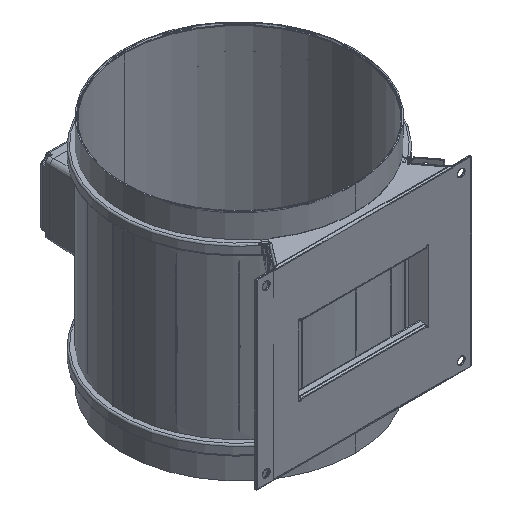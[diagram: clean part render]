
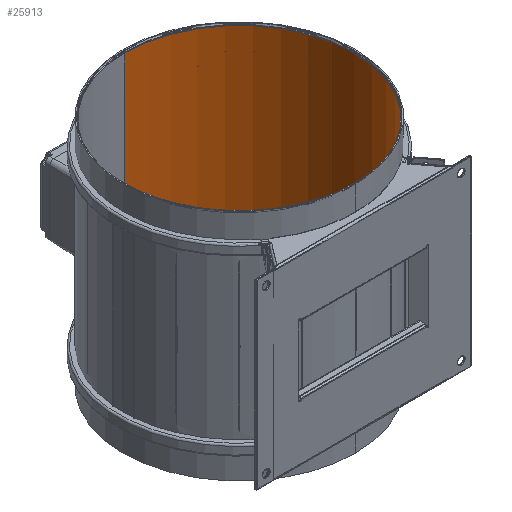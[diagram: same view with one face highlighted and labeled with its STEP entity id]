
A CAD part, isometric view. The second image highlights one B-rep face of the part: STEP entity #25913.
In plain terms, the highlighted cylindrical face has radius 137.16 mm (diameter 274.32 mm), a partial arc.
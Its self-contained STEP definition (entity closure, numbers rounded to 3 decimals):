
#1951 = DIRECTION ( 'NONE',  ( 0., 0., -1. ) ) ;
#1996 = CARTESIAN_POINT ( 'NONE',  ( 0., 0., -78.423 ) ) ;
#2016 = CARTESIAN_POINT ( 'NONE',  ( 0., 0., -355.402 ) ) ;
#2053 = DIRECTION ( 'NONE',  ( 0., -1., 0. ) ) ;
#2076 = DIRECTION ( 'NONE',  ( 1., 0., 0. ) ) ;
#2143 = DIRECTION ( 'NONE',  ( 0., 0., -1. ) ) ;
#3114 = CIRCLE ( 'NONE', #17389, 137.16 ) ;
#3207 = CIRCLE ( 'NONE', #16956, 137.16 ) ;
#3897 = EDGE_CURVE ( 'NONE', #35717, #35559, #25381, .T. ) ;
#5518 = EDGE_CURVE ( 'NONE', #35506, #40847, #13195, .T. ) ;
#5804 = DIRECTION ( 'NONE',  ( 0., 0., 1. ) ) ;
#6164 = CARTESIAN_POINT ( 'NONE',  ( 0., -137.16, -78.423 ) ) ;
#6213 = CARTESIAN_POINT ( 'NONE',  ( 0., 137.16, -78.423 ) ) ;
#6331 = CARTESIAN_POINT ( 'NONE',  ( 0., -137.16, 0. ) ) ;
#6432 = CARTESIAN_POINT ( 'NONE',  ( 0., -137.16, -355.402 ) ) ;
#6515 = CARTESIAN_POINT ( 'NONE',  ( 0., 137.16, -355.402 ) ) ;
#6528 = CARTESIAN_POINT ( 'NONE',  ( 0., 137.16, -234.143 ) ) ;
#6661 = CARTESIAN_POINT ( 'NONE',  ( 0., 137.16, -254.143 ) ) ;
#7327 = DIRECTION ( 'NONE',  ( 0., 0., 1. ) ) ;
#7329 = CARTESIAN_POINT ( 'NONE',  ( 7.5, 136.955, -589.423 ) ) ;
#7770 = CARTESIAN_POINT ( 'NONE',  ( 7.5, 136.955, -253.143 ) ) ;
#7771 = CARTESIAN_POINT ( 'NONE',  ( 7.5, 136.955, -253.407 ) ) ;
#7772 = CARTESIAN_POINT ( 'NONE',  ( 7.391, 136.961, -253.666 ) ) ;
#7773 = CARTESIAN_POINT ( 'NONE',  ( 7.114, 136.975, -253.943 ) ) ;
#7774 = CARTESIAN_POINT ( 'NONE',  ( 7.004, 136.981, -254.017 ) ) ;
#7775 = CARTESIAN_POINT ( 'NONE',  ( 6.761, 136.993, -254.117 ) ) ;
#7779 = DIRECTION ( 'NONE',  ( 0., 0., 1. ) ) ;
#7780 = CARTESIAN_POINT ( 'NONE',  ( 0., 137.16, 0. ) ) ;
#7791 = CARTESIAN_POINT ( 'NONE',  ( 6.632, 137., -254.143 ) ) ;
#7799 = CARTESIAN_POINT ( 'NONE',  ( 6.5, 137.006, -254.143 ) ) ;
#7965 = DIRECTION ( 'NONE',  ( 0., 0., 1. ) ) ;
#7966 = CARTESIAN_POINT ( 'NONE',  ( 0., 137.16, 0. ) ) ;
#12553 = CARTESIAN_POINT ( 'NONE',  ( 6.5, 137.006, -254.143 ) ) ;
#13195 = CIRCLE ( 'NONE', #37936, 137.16 ) ;
#15240 = ORIENTED_EDGE ( 'NONE', *, *, #36868, .F. ) ;
#15285 = ORIENTED_EDGE ( 'NONE', *, *, #5518, .F. ) ;
#15400 = ORIENTED_EDGE ( 'NONE', *, *, #36845, .T. ) ;
#15619 = ORIENTED_EDGE ( 'NONE', *, *, #36702, .F. ) ;
#15632 = ORIENTED_EDGE ( 'NONE', *, *, #36701, .F. ) ;
#15900 = ORIENTED_EDGE ( 'NONE', *, *, #3897, .T. ) ;
#16054 = ORIENTED_EDGE ( 'NONE', *, *, #36917, .F. ) ;
#16096 = ORIENTED_EDGE ( 'NONE', *, *, #36768, .F. ) ;
#16222 = ORIENTED_EDGE ( 'NONE', *, *, #36670, .F. ) ;
#16747 = AXIS2_PLACEMENT_3D ( 'NONE', #20544, #20689, #20693 ) ;
#16956 = AXIS2_PLACEMENT_3D ( 'NONE', #1996, #2143, #2076 ) ;
#17389 = AXIS2_PLACEMENT_3D ( 'NONE', #2016, #1951, #2053 ) ;
#18005 = B_SPLINE_CURVE_WITH_KNOTS ( 'NONE', 3,
 ( #7799, #7791, #7775, #7774, #7773, #7772, #7771, #7770 ),
 .UNSPECIFIED., .F., .F.,
 ( 4, 2, 2, 4 ),
 ( 0., 0., 0.001, 0.002 ),
 .UNSPECIFIED. ) ;
#18363 = EDGE_LOOP ( 'NONE', ( #16222, #15400, #15900, #15240, #15632, #16054, #16096, #15619, #15285 ) ) ;
#19701 = DIRECTION ( 'NONE',  ( -1., 0., 0. ) ) ;
#19702 = DIRECTION ( 'NONE',  ( 0., 0., -1. ) ) ;
#19703 = CARTESIAN_POINT ( 'NONE',  ( 0., 0., -254.143 ) ) ;
#19895 = CARTESIAN_POINT ( 'NONE',  ( 7.5, 136.955, -241.643 ) ) ;
#19919 = CARTESIAN_POINT ( 'NONE',  ( 7.5, 136.955, -253.143 ) ) ;
#20544 = CARTESIAN_POINT ( 'NONE',  ( 0., 0., 0. ) ) ;
#20689 = DIRECTION ( 'NONE',  ( 0., 0., 1. ) ) ;
#20693 = DIRECTION ( 'NONE',  ( 0., -1., 0. ) ) ;
#25381 = LINE ( 'NONE', #6331, #25387 ) ;
#25387 = VECTOR ( 'NONE', #5804, 1000. ) ;
#25913 = ADVANCED_FACE ( 'NONE', ( #32223 ), #32236, .F. ) ;
#32204 = VECTOR ( 'NONE', #7965, 1000. ) ;
#32207 = LINE ( 'NONE', #7966, #32204 ) ;
#32223 = FACE_OUTER_BOUND ( 'NONE', #18363, .T. ) ;
#32236 = CYLINDRICAL_SURFACE ( 'NONE', #16747, 137.16 ) ;
#32364 = LINE ( 'NONE', #7780, #32365 ) ;
#32365 = VECTOR ( 'NONE', #7779, 1000. ) ;
#32380 = VECTOR ( 'NONE', #7327, 1000. ) ;
#32417 = LINE ( 'NONE', #7329, #32380 ) ;
#35280 = VERTEX_POINT ( 'NONE', #19895 ) ;
#35409 = VERTEX_POINT ( 'NONE', #19919 ) ;
#35506 = VERTEX_POINT ( 'NONE', #6661 ) ;
#35523 = VERTEX_POINT ( 'NONE', #6515 ) ;
#35552 = VERTEX_POINT ( 'NONE', #6213 ) ;
#35559 = VERTEX_POINT ( 'NONE', #6164 ) ;
#35680 = VERTEX_POINT ( 'NONE', #6528 ) ;
#35717 = VERTEX_POINT ( 'NONE', #6432 ) ;
#36670 = EDGE_CURVE ( 'NONE', #35523, #35506, #32207, .T. ) ;
#36701 = EDGE_CURVE ( 'NONE', #35680, #35552, #32364, .T. ) ;
#36702 = EDGE_CURVE ( 'NONE', #40847, #35409, #18005, .T. ) ;
#36768 = EDGE_CURVE ( 'NONE', #35409, #35280, #32417, .T. ) ;
#36845 = EDGE_CURVE ( 'NONE', #35523, #35717, #3114, .T. ) ;
#36868 = EDGE_CURVE ( 'NONE', #35552, #35559, #3207, .T. ) ;
#36917 = EDGE_CURVE ( 'NONE', #35280, #35680, #38200, .T. ) ;
#37936 = AXIS2_PLACEMENT_3D ( 'NONE', #19703, #19702, #19701 ) ;
#38200 = B_SPLINE_CURVE_WITH_KNOTS ( 'NONE', 3,
 ( #38617, #38621, #38629, #38630, #38631, #38634, #38637, #38638, #38640, #38642, #38643, #38646, #38647, #38644, #38648, #38649, #38652, #38653, #38655, #38659, #38660, #38657, #38661 ),
 .UNSPECIFIED., .F., .F.,
 ( 4, 2, 2, 2, 2, 2, 2, 2, 1, 2, 2, 4 ),
 ( 0., 0.001, 0.002, 0.003, 0.004, 0.006, 0.007, 0.008, 0.009, 0.01, 0.01, 0.012 ),
 .UNSPECIFIED. ) ;
#38617 = CARTESIAN_POINT ( 'NONE',  ( 7.5, 136.955, -241.643 ) ) ;
#38621 = CARTESIAN_POINT ( 'NONE',  ( 7.5, 136.955, -241.148 ) ) ;
#38629 = CARTESIAN_POINT ( 'NONE',  ( 7.451, 136.957, -240.661 ) ) ;
#38630 = CARTESIAN_POINT ( 'NONE',  ( 7.309, 136.965, -239.942 ) ) ;
#38631 = CARTESIAN_POINT ( 'NONE',  ( 7.249, 136.968, -239.705 ) ) ;
#38634 = CARTESIAN_POINT ( 'NONE',  ( 7.107, 136.976, -239.234 ) ) ;
#38637 = CARTESIAN_POINT ( 'NONE',  ( 7.023, 136.98, -239. ) ) ;
#38638 = CARTESIAN_POINT ( 'NONE',  ( 6.741, 136.994, -238.319 ) ) ;
#38640 = CARTESIAN_POINT ( 'NONE',  ( 6.511, 137.006, -237.888 ) ) ;
#38642 = CARTESIAN_POINT ( 'NONE',  ( 5.967, 137.03, -237.073 ) ) ;
#38643 = CARTESIAN_POINT ( 'NONE',  ( 5.651, 137.044, -236.687 ) ) ;
#38644 = CARTESIAN_POINT ( 'NONE',  ( 3.968, 137.103, -235.274 ) ) ;
#38646 = CARTESIAN_POINT ( 'NONE',  ( 4.96, 137.071, -235.996 ) ) ;
#38647 = CARTESIAN_POINT ( 'NONE',  ( 4.582, 137.084, -235.685 ) ) ;
#38648 = CARTESIAN_POINT ( 'NONE',  ( 3.755, 137.109, -235.146 ) ) ;
#38649 = CARTESIAN_POINT ( 'NONE',  ( 3.323, 137.12, -234.915 ) ) ;
#38652 = CARTESIAN_POINT ( 'NONE',  ( 2.881, 137.13, -234.706 ) ) ;
#38653 = CARTESIAN_POINT ( 'NONE',  ( 2.421, 137.139, -234.54 ) ) ;
#38655 = CARTESIAN_POINT ( 'NONE',  ( 1.952, 137.146, -234.397 ) ) ;
#38657 = CARTESIAN_POINT ( 'NONE',  ( 0.495, 137.16, -234.143 ) ) ;
#38659 = CARTESIAN_POINT ( 'NONE',  ( 1.712, 137.15, -234.337 ) ) ;
#38660 = CARTESIAN_POINT ( 'NONE',  ( 0.985, 137.157, -234.192 ) ) ;
#38661 = CARTESIAN_POINT ( 'NONE',  ( 0., 137.16, -234.143 ) ) ;
#40847 = VERTEX_POINT ( 'NONE', #12553 ) ;
